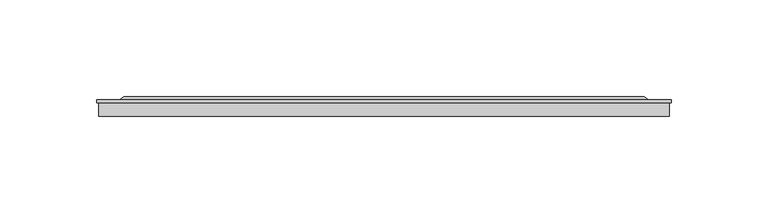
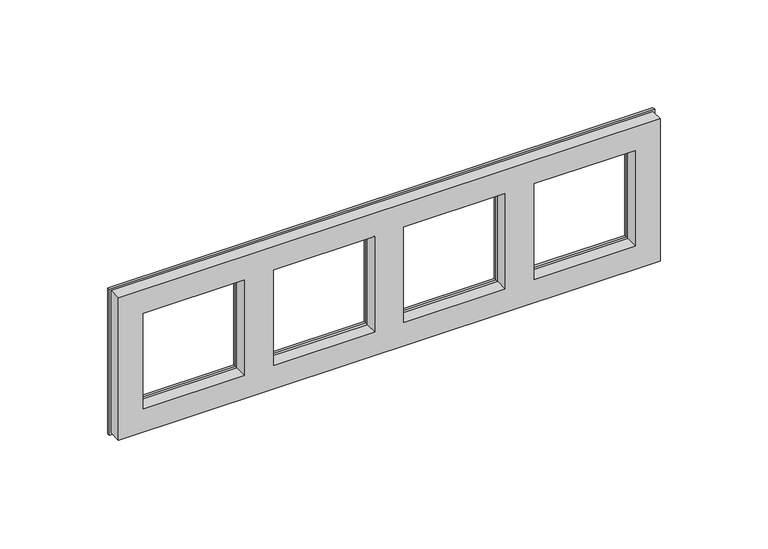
"""IFC4 building model written with IfcOpenShell, lengths in millimetres: proxy geometry, IEK_Brite_Рамка : x4_РУ-4-БрА алюм.."""

from ifc_helpers import new_model, si_unit, frame, origin, place, context, project, spatial, polyline, outline, extrude, faceted_brep, source, transform, mapped, element, save


def electrical_fixtures_3d888c91(model_context):
    return source(origin(), model_context, "Body", "SolidModel", [
        extrude(outline(polyline([(41.0, -254.0), (-41.0, -254.0), (-41.0, 41.0), (41.0, 41.0), (41.0, -254.0)]), holes=[polyline([(-27.5, -169.5), (27.5, -169.5), (27.5, -114.5), (-27.5, -114.5), (-27.5, -169.5)]), polyline([(-27.5, -98.5), (27.5, -98.5), (27.5, -43.5), (-27.5, -43.5), (-27.5, -98.5)]), polyline([(-27.5, -27.5), (27.5, -27.5), (27.5, 27.5), (-27.5, 27.5), (-27.5, -27.5)]), polyline([(-27.5, -240.5), (27.5, -240.5), (27.5, -185.5), (-27.5, -185.5), (-27.5, -240.5)])]), frame((0.0, 0.0, 0.0), z_axis=(0.0, 1.0, 0.0), x_axis=(0.0, 0.0, 1.0)), (0.0, 0.0, 1.0), 7.0),
        extrude(outline(polyline([(42.0, -255.0), (-42.0, -255.0), (-42.0, 42.0), (42.0, 42.0), (42.0, -255.0)]), holes=[polyline([(-27.5, -169.5), (27.5, -169.5), (27.5, -114.5), (-27.5, -114.5), (-27.5, -169.5)]), polyline([(-27.5, -98.5), (27.5, -98.5), (27.5, -43.5), (-27.5, -43.5), (-27.5, -98.5)]), polyline([(-27.5, -27.5), (27.5, -27.5), (27.5, 27.5), (-27.5, 27.5), (-27.5, -27.5)]), polyline([(-27.5, -240.5), (27.5, -240.5), (27.5, -185.5), (-27.5, -185.5), (-27.5, -240.5)])]), frame((0.0, 7.0, 0.0), z_axis=(0.0, 1.0, 0.0), x_axis=(0.0, 0.0, 1.0)), (0.0, 0.0, 1.0), 1.5),
        faceted_brep([(-27.5, 10.0, 27.5), (-27.5, 8.5, 27.5), (-27.5, 8.5, -27.5), (-27.5, 10.0, -27.5), (27.5, 8.5, -27.5), (27.5, 10.0, -27.5), (27.5, 8.5, 27.5), (27.5, 10.0, 27.5), (-243.0, 8.5, 30.0), (-243.0, 8.5, -30.0), (30.0, 8.5, -30.0), (30.0, 8.5, 30.0), (-240.5, 8.5, -27.5), (-240.5, 8.5, 27.5), (-185.5, 8.5, 27.5), (-185.5, 8.5, -27.5), (-169.5, 8.5, -27.5), (-169.5, 8.5, 27.5), (-114.5, 8.5, 27.5), (-114.5, 8.5, -27.5), (-98.5, 8.5, -27.5), (-98.5, 8.5, 27.5), (-43.5, 8.5, 27.5), (-43.5, 8.5, -27.5), (-241.0, 10.0, 28.0), (28.0, 10.0, 28.0), (28.0, 10.0, -28.0), (-241.0, 10.0, -28.0), (-240.5, 10.0, 27.5), (-240.5, 10.0, -27.5), (-185.5, 10.0, -27.5), (-185.5, 10.0, 27.5), (-169.5, 10.0, 27.5), (-169.5, 10.0, -27.5), (-114.5, 10.0, -27.5), (-114.5, 10.0, 27.5), (-98.5, 10.0, 27.5), (-98.5, 10.0, -27.5), (-43.5, 10.0, -27.5), (-43.5, 10.0, 27.5)], [[[0, 1, 2, 3]], [[3, 2, 4, 5]], [[5, 4, 6, 7]], [[1, 0, 7, 6]], [[8, 9, 10, 11], [2, 1, 6, 4], [12, 13, 14, 15], [16, 17, 18, 19], [20, 21, 22, 23]], [[24, 25, 26, 27], [0, 3, 5, 7], [28, 29, 30, 31], [32, 33, 34, 35], [36, 37, 38, 39]], [[9, 8, 24, 27]], [[10, 9, 27, 26]], [[11, 10, 26, 25]], [[8, 11, 25, 24]], [[28, 13, 12, 29]], [[29, 12, 15, 30]], [[30, 15, 14, 31]], [[13, 28, 31, 14]], [[32, 17, 16, 33]], [[33, 16, 19, 34]], [[34, 19, 18, 35]], [[17, 32, 35, 18]], [[36, 21, 20, 37]], [[37, 20, 23, 38]], [[38, 23, 22, 39]], [[21, 36, 39, 22]]]),
    ])


if __name__ == "__main__":
    model = new_model("IFC4")
    model_context = context("Model", 3, world=origin())
    ifc_project = project(units=[si_unit("LENGTHUNIT", "METRE", prefix="MILLI")], contexts=[model_context])
    site = spatial("IfcSite", under=ifc_project)
    building = spatial("IfcBuilding", under=site)
    placement = place(None, origin())
    electrical_fixtures_shape = electrical_fixtures_3d888c91(model_context)
    element("IfcBuildingElementProxy", 1, Name="IEK_Brite_Рамка : x4_РУ-4-БрА алюм.", ObjectType="IEK_Brite_Рамка : x4_РУ-4-БрА алюм.", at=placement, inside=building, context=model_context, shape_type="MappedRepresentation", body=[
        mapped(electrical_fixtures_shape, transform((0.0, 0.0, 0.0), x_axis=(1.0, 0.0, 0.0), y_axis=(0.0, 1.0, 0.0), z_axis=(0.0, 0.0, 1.0))),
    ])
    save(model, "model.ifc")
